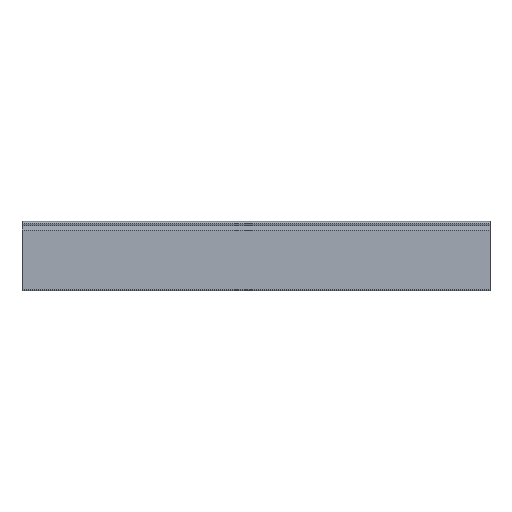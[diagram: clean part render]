
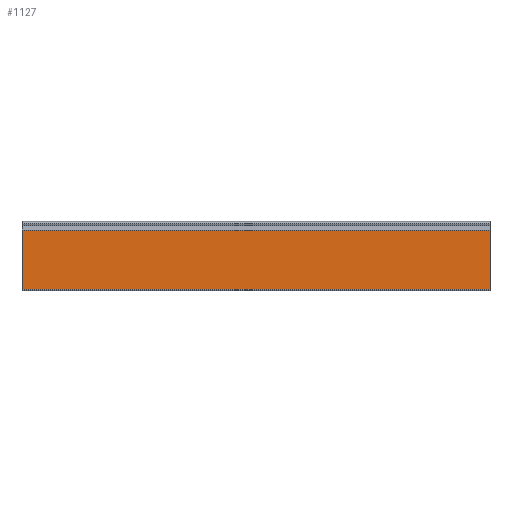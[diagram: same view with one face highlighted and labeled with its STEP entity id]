
A CAD part, top view. The second image highlights one B-rep face of the part: STEP entity #1127.
In plain terms, the highlighted planar face has unit normal (0, 0, 1).
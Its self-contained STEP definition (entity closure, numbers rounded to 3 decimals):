
#49 = LINE ( 'NONE', #855, #50 ) ;
#50 = VECTOR ( 'NONE', #856, 1000. ) ;
#71 = LINE ( 'NONE', #881, #72 ) ;
#72 = VECTOR ( 'NONE', #882, 1000. ) ;
#75 = LINE ( 'NONE', #885, #76 ) ;
#76 = VECTOR ( 'NONE', #886, 1000. ) ;
#127 = FACE_OUTER_BOUND ( 'NONE', #1081, .T. ) ;
#206 = EDGE_CURVE ( 'NONE', #927, #624, #381, .T. ) ;
#264 = EDGE_CURVE ( 'NONE', #966, #951, #49, .T. ) ;
#276 = EDGE_CURVE ( 'NONE', #927, #966, #71, .T. ) ;
#278 = EDGE_CURVE ( 'NONE', #624, #951, #75, .T. ) ;
#376 = VECTOR ( 'NONE', #714, 1000. ) ;
#381 = LINE ( 'NONE', #702, #376 ) ;
#429 = CARTESIAN_POINT ( 'NONE',  ( -433., -121.663, 4.05 ) ) ;
#444 = CARTESIAN_POINT ( 'NONE',  ( -433., -12.164, 4.05 ) ) ;
#567 = PLANE ( 'NONE',  #1323 ) ;
#570 = CARTESIAN_POINT ( 'NONE',  ( 433., -12.164, 4.05 ) ) ;
#585 = DIRECTION ( 'NONE',  ( 0., 0., -1. ) ) ;
#586 = DIRECTION ( 'NONE',  ( 0., 1., 0. ) ) ;
#624 = VERTEX_POINT ( 'NONE', #889 ) ;
#702 = CARTESIAN_POINT ( 'NONE',  ( 433., -12.164, 4.05 ) ) ;
#714 = DIRECTION ( 'NONE',  ( 0., -1., 0. ) ) ;
#855 = CARTESIAN_POINT ( 'NONE',  ( -433., -12.164, 4.05 ) ) ;
#856 = DIRECTION ( 'NONE',  ( 0., -1., 0. ) ) ;
#881 = CARTESIAN_POINT ( 'NONE',  ( 433., -12.164, 4.05 ) ) ;
#882 = DIRECTION ( 'NONE',  ( -1., 0., 0. ) ) ;
#885 = CARTESIAN_POINT ( 'NONE',  ( 433., -121.663, 4.05 ) ) ;
#886 = DIRECTION ( 'NONE',  ( -1., 0., 0. ) ) ;
#889 = CARTESIAN_POINT ( 'NONE',  ( 433., -121.663, 4.05 ) ) ;
#901 = CARTESIAN_POINT ( 'NONE',  ( 433., -12.164, 4.05 ) ) ;
#927 = VERTEX_POINT ( 'NONE', #901 ) ;
#951 = VERTEX_POINT ( 'NONE', #429 ) ;
#966 = VERTEX_POINT ( 'NONE', #444 ) ;
#1066 = ORIENTED_EDGE ( 'NONE', *, *, #264, .T. ) ;
#1067 = ORIENTED_EDGE ( 'NONE', *, *, #278, .F. ) ;
#1068 = ORIENTED_EDGE ( 'NONE', *, *, #206, .F. ) ;
#1069 = ORIENTED_EDGE ( 'NONE', *, *, #276, .T. ) ;
#1081 = EDGE_LOOP ( 'NONE', ( #1066, #1067, #1068, #1069 ) ) ;
#1127 = ADVANCED_FACE ( 'NONE', ( #127 ), #567, .F. ) ;
#1323 = AXIS2_PLACEMENT_3D ( 'NONE', #570, #585, #586 ) ;
